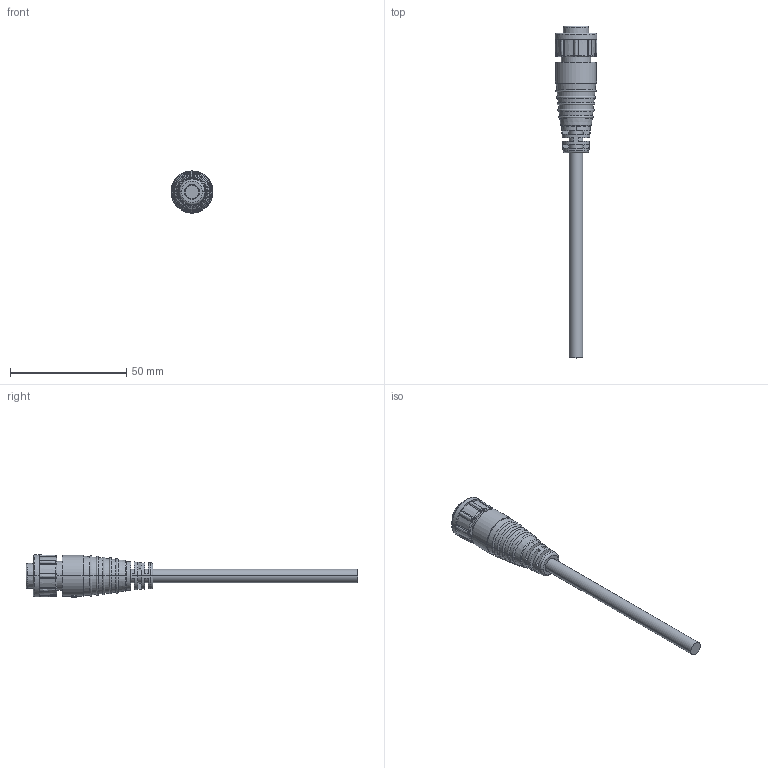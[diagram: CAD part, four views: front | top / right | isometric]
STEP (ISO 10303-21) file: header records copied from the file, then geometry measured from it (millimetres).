
FILE_DESCRIPTION((''),'2;1');
FILE_NAME('ABD-04AFFM-LL7AXX_SW0001','2017-07-20T',('LT0787'),(''),'PRO/ENGINEER BY PARAMETRIC TECHNOLOGY CORPORATION, 2013050','PRO/ENGINEER BY PARAMETRIC TECHNOLOGY CORPORATION, 2013050','');
FILE_SCHEMA(('CONFIG_CONTROL_DESIGN'));
Length unit declared in the file: millimetre
Products named in the file (1): ABD-04AFFM-LL7AXX_SW0001
Bounding box: 18 x 142.5 x 18.1 mm (x, y, z)
Volume: 11150 mm3; surface area: 7276.9 mm2
Topology: 1 solids, 1 shells, 727 faces, 1993 edges, 1254 vertices
Faces by surface type: plane 317, bspline 120, cylinder 114, cone 66, extrusion 56, torus 53, sphere 1
Entity records: 29946 total; most frequent: CARTESIAN_POINT 11543, ORIENTED_EDGE 3982, DIRECTION 3236, EDGE_CURVE 1991, VERTEX_POINT 1254, AXIS2_PLACEMENT_3D 1180, VECTOR 876, LINE 820
